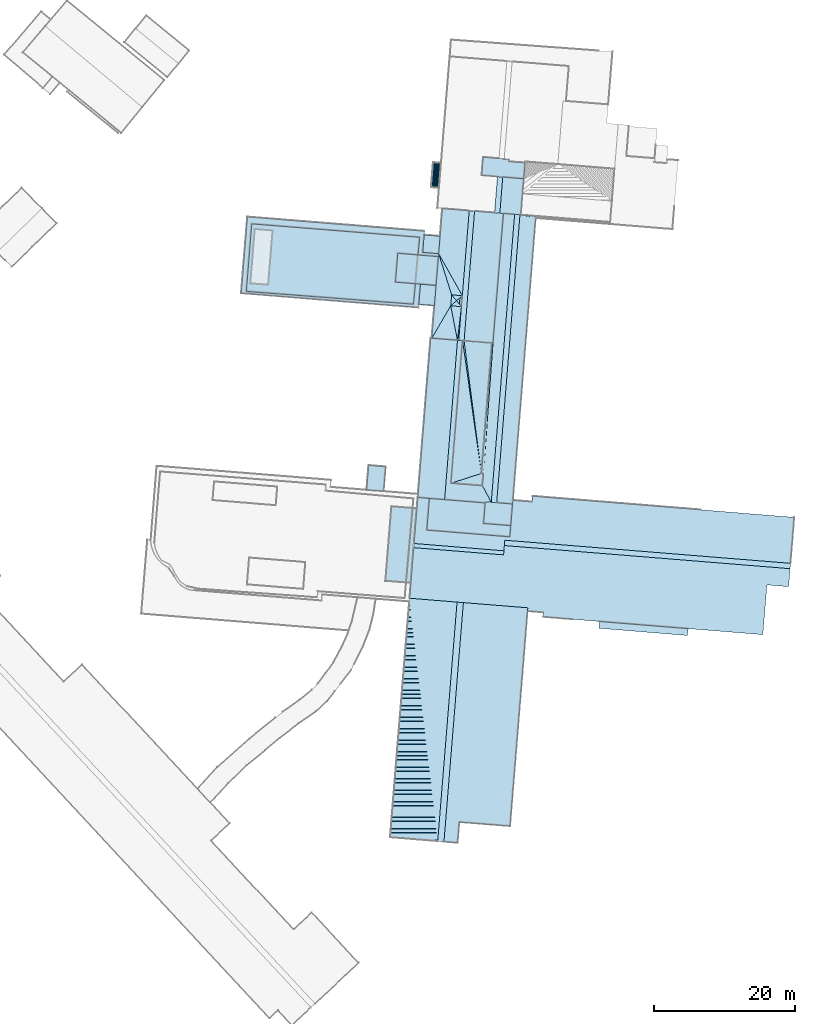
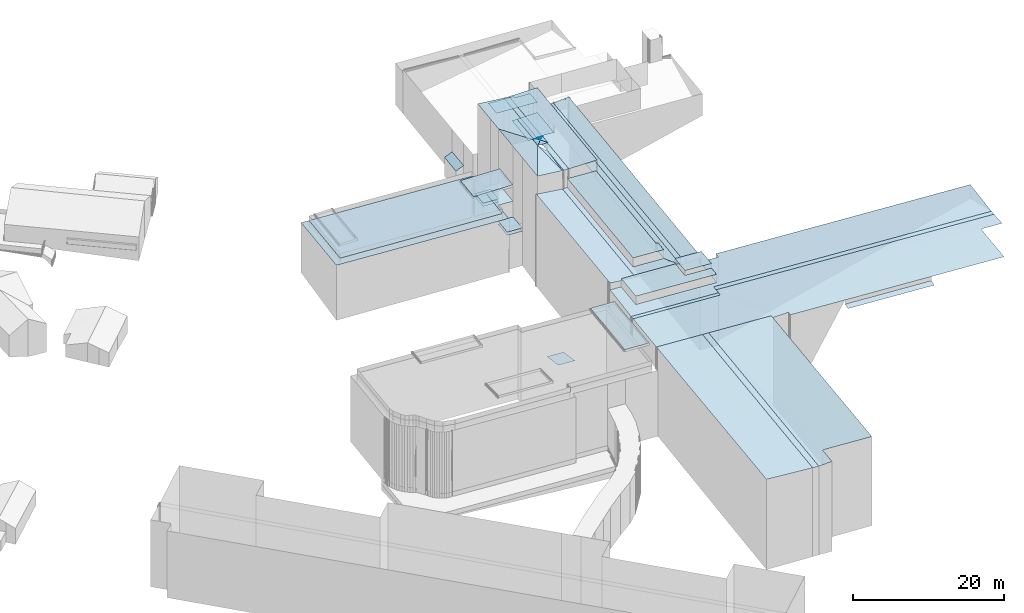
# Not in any storey, part 134 of 136: 69 roofs.
"""IFC2X3 building model written with IfcOpenShell, lengths in metres."""

from ifc_helpers import new_model, entity, si_unit, converted_unit, frame, origin, place, context, subcontext, project, spatial, face_set, surface_model, element, save


model = new_model("IFC2X3")

# Units and contexts
model_context = context("Model", 3, precision=1e-05, world=origin())
body_context = subcontext(model_context, "Body", "Model", "MODEL_VIEW")
ifc_project = project(units=[converted_unit("PLANEANGLEUNIT", "DEGREE", entity("IfcRatioMeasure", 0.0174532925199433), si_unit("PLANEANGLEUNIT", "RADIAN"), dimensions=[0, 0, 0, 0, 0, 0, 0]), si_unit("AREAUNIT", "SQUARE_METRE"), si_unit("LENGTHUNIT", "METRE")], contexts=[model_context])

# Site, building
site_placement = place(None, origin())
site = spatial("IfcSite", under=ifc_project, at=site_placement, Name="_site", CompositionType="ELEMENT")
building_1_placement = place(site_placement, origin())
building_1 = spatial("IfcBuilding", under=site, at=building_1_placement, Name="_building", CompositionType="ELEMENT")

# Roofs
roof_1_placement = place(building_1_placement, origin())
element("IfcRoof", 1, at=roof_1_placement, inside=building_1, Name="Roof", ShapeType="NOTDEFINED", context=body_context, shape_type="SurfaceModel", body=[
    surface_model("IfcFaceBasedSurfaceModel", [(189.5, 104.54, 48.15), (188.73, 94.94, 48.15), (212.49, 93.12, 48.15), (213.36, 102.63, 48.15)], [face_set([[[0, 1, 2, 3]]])]),
])
roof_2_placement = place(building_1_placement, origin())
element("IfcRoof", 2, at=roof_2_placement, inside=building_1, Name="Roof", ShapeType="NOTDEFINED", context=body_context, shape_type="SurfaceModel", body=[
    surface_model("IfcFaceBasedSurfaceModel", [(215.69, 95.79, 50.07), (216.03, 99.88, 50.07), (210.25, 100.36, 49.87), (209.92, 96.26, 49.87)], [face_set([[[0, 1, 2, 3]]])]),
])

# Building
building_2_placement = place(site_placement, origin())
building_2 = spatial("IfcBuilding", under=site, at=building_2_placement, Name="_building", CompositionType="ELEMENT")

# Roofs
roof_3_placement = place(building_2_placement, origin())
element("IfcRoof", 3, at=roof_3_placement, inside=building_2, Name="Roof", ShapeType="NOTDEFINED", context=body_context, shape_type="SurfaceModel", body=[
    surface_model("IfcFaceBasedSurfaceModel", [(266.0, 55.54, 52.09), (266.06, 56.3, 52.09), (225.45, 59.59, 52.09), (225.39, 58.83, 52.09)], [face_set([[[0, 1, 2, 3]]])]),
])
roof_4_placement = place(building_2_placement, origin())
element("IfcRoof", 4, at=roof_4_placement, inside=building_2, Name="Roof", ShapeType="NOTDEFINED", context=body_context, shape_type="SurfaceModel", body=[
    surface_model("IfcFaceBasedSurfaceModel", [(211.93, 51.34, 52.09), (211.89, 50.86, 52.09), (209.17, 17.36, 52.25), (215.92, 16.811, 52.09), (218.67, 50.79, 52.09)], [face_set([[[0, 1, 2, 3, 4]]])]),
])
roof_5_placement = place(building_2_placement, origin())
element("IfcRoof", 5, at=roof_5_placement, inside=building_2, Name="Roof", ShapeType="NOTDEFINED", context=body_context, shape_type="SurfaceModel", body=[
    surface_model("IfcFaceBasedSurfaceModel", [(215.46, 92.93, 44.89), (215.69, 95.79, 44.89), (213.47, 95.97, 44.89), (213.24, 93.11, 44.89)], [face_set([[[0, 1, 2, 3]]])]),
])
roof_6_placement = place(building_2_placement, origin())
element("IfcRoof", 6, at=roof_6_placement, inside=building_2, Name="Roof", ShapeType="NOTDEFINED", context=body_context, shape_type="SurfaceModel", body=[
    surface_model("IfcFaceBasedSurfaceModel", [(205.82, 66.72, 41.95), (208.25, 66.53, 41.95), (208.53, 70.03, 41.13), (206.1, 70.23, 41.13)], [face_set([[[0, 1, 2, 3]]])]),
])
roof_7_placement = place(building_2_placement, origin())
element("IfcRoof", 7, at=roof_7_placement, inside=building_2, Name="Roof", ShapeType="NOTDEFINED", context=body_context, shape_type="SurfaceModel", body=[
    surface_model("IfcFaceBasedSurfaceModel", [(223.64, 87.59, 54.52), (219.67, 87.917, 54.52), (219.45, 87.93, 54.52), (217.81, 67.68, 54.52), (222.28, 67.32, 54.52), (222.42, 69.061, 54.52), (222.14, 69.08, 54.52)], [face_set([[[0, 1, 2, 3, 4, 5, 6]]])]),
])
roof_8_placement = place(building_2_placement, origin())
element("IfcRoof", 8, at=roof_8_placement, inside=building_2, Name="Roof", ShapeType="NOTDEFINED", context=body_context, shape_type="SurfaceModel", body=[
    surface_model("IfcFaceBasedSurfaceModel", [(215.69, 95.79, 50.07), (216.03, 99.88, 50.07), (210.25, 100.36, 49.87), (209.92, 96.26, 49.87)], [face_set([[[0, 1, 2, 3]]])]),
])
roof_9_placement = place(building_2_placement, origin())
element("IfcRoof", 9, at=roof_9_placement, inside=building_2, Name="Roof", ShapeType="NOTDEFINED", context=body_context, shape_type="SurfaceModel", body=[
    surface_model("IfcFaceBasedSurfaceModel", [(219.42, 94.33, 56.01), (219.29, 92.78, 56.01), (218.91, 87.978, 56.01), (219.45, 87.93, 56.01), (219.67, 87.917, 56.01), (221.16, 106.35, 56.01), (220.4, 106.41, 56.01)], [face_set([[[0, 1, 2, 3, 4, 5, 6]]])]),
])
roof_10_placement = place(building_2_placement, origin())
element("IfcRoof", 10, at=roof_10_placement, inside=building_2, Name="Roof", ShapeType="NOTDEFINED", context=body_context, shape_type="SurfaceModel", body=[
    surface_model("IfcFaceBasedSurfaceModel", [(218.67, 50.79, 52.09), (219.57, 50.72, 52.09), (228.73, 49.98, 52.09), (228.69, 49.5, 52.09), (230.94, 49.32, 52.25), (230.89, 48.69, 52.25), (238.89, 48.04, 52.25), (251.5, 47.021, 52.25), (262.13, 46.16, 52.25), (262.71, 53.23, 52.25), (265.79, 52.98, 52.25), (266.0, 55.54, 52.09), (225.39, 58.83, 52.09), (225.33, 58.08, 52.09), (225.28, 57.5, 52.09), (212.511, 58.53, 52.09), (211.93, 51.34, 52.09)], [face_set([[[0, 1, 2, 3, 4, 5, 6, 7, 8, 9, 10, 11, 12, 13, 14, 15, 16]]])]),
])
roof_11_placement = place(building_2_placement, origin())
element("IfcRoof", 11, at=roof_11_placement, inside=building_2, Name="Roof", ShapeType="NOTDEFINED", context=body_context, shape_type="SurfaceModel", body=[
    surface_model("IfcFaceBasedSurfaceModel", [(228.15, 110.95, 49.85), (228.34, 113.22, 49.85), (226.06, 113.4, 49.85), (226.08, 113.72, 49.85), (225.37, 113.774, 49.85), (224.63, 113.833, 49.85), (222.38, 114.021, 49.85), (222.17, 111.43, 49.85), (224.42, 111.25, 49.85), (225.16, 111.19, 49.85)], [face_set([[[0, 1, 2, 3, 4, 5, 6, 7, 8, 9]]])]),
])
roof_12_placement = place(building_2_placement, origin())
element("IfcRoof", 12, at=roof_12_placement, inside=building_2, Name="Roof", ShapeType="NOTDEFINED", context=body_context, shape_type="SurfaceModel", body=[
    surface_model("IfcFaceBasedSurfaceModel", [(222.68, 64.88, 53.57), (216.9, 65.349, 53.57), (214.74, 65.521, 53.57), (214.38, 61.021, 53.57), (226.18, 60.061, 53.57), (226.31, 61.65, 53.57), (222.44, 61.96, 53.57)], [face_set([[[0, 1, 2, 3, 4, 5, 6]]])]),
])
roof_13_placement = place(building_2_placement, origin())
element("IfcRoof", 13, at=roof_13_placement, inside=building_2, Name="Roof", ShapeType="NOTDEFINED", context=body_context, shape_type="SurfaceModel", body=[
    surface_model("IfcFaceBasedSurfaceModel", [(229.85, 105.351, 53.35), (229.88, 105.64, 53.35), (227.74, 105.811, 53.07), (227.61, 105.821, 53.06), (224.3, 64.919, 53.06), (226.56, 64.73, 53.35), (226.61, 65.26, 53.35)], [face_set([[[0, 1, 2, 3, 4, 5, 6]]])]),
])
roof_14_placement = place(building_2_placement, origin())
element("IfcRoof", 14, at=roof_14_placement, inside=building_2, Name="Roof", ShapeType="NOTDEFINED", context=body_context, shape_type="SurfaceModel", body=[
    surface_model("IfcFaceBasedSurfaceModel", [(219.67, 87.917, 56.01), (223.64, 87.59, 56.21), (223.78, 87.58, 56.22), (225.27, 106.01, 56.22), (224.75, 106.058, 56.193), (224.0, 106.118, 56.155), (221.16, 106.35, 56.01)], [face_set([[[0, 1, 2, 3, 4, 5, 6]]])]),
])
roof_15_placement = place(building_2_placement, origin())
element("IfcRoof", 15, at=roof_15_placement, inside=building_2, Name="Roof", ShapeType="NOTDEFINED", context=body_context, shape_type="SurfaceModel", body=[
    surface_model("IfcFaceBasedSurfaceModel", [(227.61, 105.821, 53.06), (226.85, 105.887, 53.06), (223.53, 64.98, 53.06), (224.3, 64.919, 53.06)], [face_set([[[0, 1, 2, 3]]])]),
])
roof_16_placement = place(building_2_placement, origin())
element("IfcRoof", 16, at=roof_16_placement, inside=building_2, Name="Roof", ShapeType="NOTDEFINED", context=body_context, shape_type="SurfaceModel", body=[
    surface_model("IfcFaceBasedSurfaceModel", [(217.77, 92.9, 57.43), (219.29, 92.78, 57.43), (218.6, 93.62, 57.61)], [face_set([[[0, 1, 2]]])]),
])
roof_17_placement = place(building_2_placement, origin())
element("IfcRoof", 17, at=roof_17_placement, inside=building_2, Name="Roof", ShapeType="NOTDEFINED", context=body_context, shape_type="SurfaceModel", body=[
    surface_model("IfcFaceBasedSurfaceModel", [(228.15, 110.95, 49.85), (228.34, 113.22, 49.85), (226.06, 113.4, 49.85), (226.08, 113.72, 49.85), (225.37, 113.774, 49.85), (224.63, 113.833, 49.85), (222.38, 114.021, 49.85), (222.17, 111.43, 49.85), (224.42, 111.25, 49.85), (225.16, 111.19, 49.85)], [face_set([[[0, 1, 2, 3, 4, 5, 6, 7, 8, 9]]])]),
])
roof_18_placement = place(building_2_placement, origin())
element("IfcRoof", 18, at=roof_18_placement, inside=building_2, Name="Roof", ShapeType="NOTDEFINED", context=body_context, shape_type="SurfaceModel", body=[
    surface_model("IfcFaceBasedSurfaceModel", [(216.26, 102.79, 44.36), (214.0, 102.97, 44.36), (213.79, 100.48, 44.36), (216.06, 100.3, 44.36)], [face_set([[[0, 1, 2, 3]]])]),
])
roof_19_placement = place(building_2_placement, origin())
element("IfcRoof", 19, at=roof_19_placement, inside=building_2, Name="Roof", ShapeType="NOTDEFINED", context=body_context, shape_type="SurfaceModel", body=[
    surface_model("IfcFaceBasedSurfaceModel", [(224.0, 106.118, 48.02), (224.75, 106.058, 48.02), (225.16, 111.19, 48.02), (224.42, 111.25, 48.02)], [face_set([[[0, 1, 2, 3]]])]),
])
roof_20_placement = place(building_2_placement, origin())
element("IfcRoof", 20, at=roof_20_placement, inside=building_2, Name="Roof", ShapeType="NOTDEFINED", context=body_context, shape_type="SurfaceModel", body=[
    surface_model("IfcFaceBasedSurfaceModel", [(225.28, 57.5, 52.09), (225.33, 58.08, 52.09), (212.56, 59.12, 52.09), (212.511, 58.53, 52.09)], [face_set([[[0, 1, 2, 3]]])]),
])
roof_21_placement = place(building_2_placement, origin())
element("IfcRoof", 21, at=roof_21_placement, inside=building_2, Name="Roof", ShapeType="NOTDEFINED", context=body_context, shape_type="SurfaceModel", body=[
    surface_model("IfcFaceBasedSurfaceModel", [(218.6, 93.62, 57.61), (219.42, 94.33, 57.43), (217.9, 94.45, 57.43)], [face_set([[[0, 1, 2]]])]),
])
roof_22_placement = place(building_2_placement, origin())
element("IfcRoof", 22, at=roof_22_placement, inside=building_2, Name="Roof", ShapeType="NOTDEFINED", context=body_context, shape_type="SurfaceModel", body=[
    surface_model("IfcFaceBasedSurfaceModel", [(222.68, 64.88, 53.57), (216.9, 65.349, 53.57), (214.74, 65.521, 53.57), (214.38, 61.021, 53.57), (226.18, 60.061, 53.57), (226.31, 61.65, 53.57), (222.44, 61.96, 53.57)], [face_set([[[0, 1, 2, 3, 4, 5, 6]]])]),
])
roof_23_placement = place(building_2_placement, origin())
element("IfcRoof", 23, at=roof_23_placement, inside=building_2, Name="Roof", ShapeType="NOTDEFINED", context=body_context, shape_type="SurfaceModel", body=[
    surface_model("IfcFaceBasedSurfaceModel", [(215.08, 88.29, 56.22), (218.73, 87.992, 56.02), (218.91, 87.978, 56.01), (219.29, 92.78, 56.01), (217.77, 92.9, 57.43), (217.9, 94.45, 57.43), (219.42, 94.33, 56.01), (220.4, 106.41, 56.01), (216.58, 106.72, 56.22), (216.26, 102.79, 56.22), (216.06, 100.3, 56.22), (215.69, 95.79, 56.22), (215.46, 92.93, 56.22)], [face_set([[[0, 1, 2, 3, 4, 5, 6, 7, 8, 9, 10, 11, 12]]])]),
])
roof_24_placement = place(building_2_placement, origin())
element("IfcRoof", 24, at=roof_24_placement, inside=building_2, Name="Roof", ShapeType="NOTDEFINED", context=body_context, shape_type="SurfaceModel", body=[
    surface_model("IfcFaceBasedSurfaceModel", [(189.5, 104.54, 48.15), (188.73, 94.94, 48.15), (212.49, 93.12, 48.15), (213.36, 102.63, 48.15)], [face_set([[[0, 1, 2, 3]]])]),
])
roof_25_placement = place(building_2_placement, origin())
element("IfcRoof", 25, at=roof_25_placement, inside=building_2, Name="Roof", ShapeType="NOTDEFINED", context=body_context, shape_type="SurfaceModel", body=[
    surface_model("IfcFaceBasedSurfaceModel", [(225.28, 57.5, 52.09), (225.33, 58.08, 52.09), (212.56, 59.12, 52.09), (212.511, 58.53, 52.09)], [face_set([[[0, 1, 2, 3]]])]),
])
roof_26_placement = place(building_2_placement, origin())
element("IfcRoof", 26, at=roof_26_placement, inside=building_2, Name="Roof", ShapeType="NOTDEFINED", context=body_context, shape_type="SurfaceModel", body=[
    surface_model("IfcFaceBasedSurfaceModel", [(224.3, 64.919, 54.32), (223.53, 64.98, 54.32), (222.69, 65.05, 54.32), (222.68, 64.88, 54.32), (222.44, 61.96, 54.32), (226.31, 61.65, 54.32), (226.56, 64.73, 54.32)], [face_set([[[0, 1, 2, 3, 4, 5, 6]]])]),
])
roof_27_placement = place(building_2_placement, origin())
element("IfcRoof", 27, at=roof_27_placement, inside=building_2, Name="Roof", ShapeType="NOTDEFINED", context=body_context, shape_type="SurfaceModel", body=[
    surface_model("IfcFaceBasedSurfaceModel", [(215.08, 88.29, 56.22), (218.73, 87.992, 56.02), (218.91, 87.978, 56.01), (219.29, 92.78, 56.01), (217.77, 92.9, 57.43), (217.9, 94.45, 57.43), (219.42, 94.33, 56.01), (220.4, 106.41, 56.01), (216.58, 106.72, 56.22), (216.26, 102.79, 56.22), (216.06, 100.3, 56.22), (215.69, 95.79, 56.22), (215.46, 92.93, 56.22)], [face_set([[[0, 1, 2, 3, 4, 5, 6, 7, 8, 9, 10, 11, 12]]])]),
])
roof_28_placement = place(building_2_placement, origin())
element("IfcRoof", 28, at=roof_28_placement, inside=building_2, Name="Roof", ShapeType="NOTDEFINED", context=body_context, shape_type="SurfaceModel", body=[
    surface_model("IfcFaceBasedSurfaceModel", [(223.64, 87.59, 54.52), (219.67, 87.917, 54.52), (219.45, 87.93, 54.52), (217.81, 67.68, 54.52), (222.28, 67.32, 54.52), (222.42, 69.061, 54.52), (222.14, 69.08, 54.52)], [face_set([[[0, 1, 2, 3, 4, 5, 6]]])]),
])
roof_29_placement = place(building_2_placement, origin())
element("IfcRoof", 29, at=roof_29_placement, inside=building_2, Name="Roof", ShapeType="NOTDEFINED", context=body_context, shape_type="SurfaceModel", body=[
    surface_model("IfcFaceBasedSurfaceModel", [(216.26, 102.79, 44.36), (214.0, 102.97, 44.36), (213.79, 100.48, 44.36), (216.06, 100.3, 44.36)], [face_set([[[0, 1, 2, 3]]])]),
])
roof_30_placement = place(building_2_placement, origin())
element("IfcRoof", 30, at=roof_30_placement, inside=building_2, Name="Roof", ShapeType="NOTDEFINED", context=body_context, shape_type="SurfaceModel", body=[
    surface_model("IfcFaceBasedSurfaceModel", [(218.67, 50.79, 52.09), (219.57, 50.72, 52.09), (228.73, 49.98, 52.09), (228.69, 49.5, 52.09), (230.94, 49.32, 52.25), (230.89, 48.69, 52.25), (238.89, 48.04, 52.25), (251.5, 47.021, 52.25), (262.13, 46.16, 52.25), (262.71, 53.23, 52.25), (265.79, 52.98, 52.25), (266.0, 55.54, 52.09), (225.39, 58.83, 52.09), (225.33, 58.08, 52.09), (225.28, 57.5, 52.09), (212.511, 58.53, 52.09), (211.93, 51.34, 52.09)], [face_set([[[0, 1, 2, 3, 4, 5, 6, 7, 8, 9, 10, 11, 12, 13, 14, 15, 16]]])]),
])
roof_31_placement = place(building_2_placement, origin())
element("IfcRoof", 31, at=roof_31_placement, inside=building_2, Name="Roof", ShapeType="NOTDEFINED", context=body_context, shape_type="SurfaceModel", body=[
    surface_model("IfcFaceBasedSurfaceModel", [(217.77, 92.9, 57.43), (219.29, 92.78, 57.43), (218.6, 93.62, 57.61)], [face_set([[[0, 1, 2]]])]),
])
roof_32_placement = place(building_2_placement, origin())
element("IfcRoof", 32, at=roof_32_placement, inside=building_2, Name="Roof", ShapeType="NOTDEFINED", context=body_context, shape_type="SurfaceModel", body=[
    surface_model("IfcFaceBasedSurfaceModel", [(212.96, 64.09, 51.37), (209.36, 64.38, 51.37), (208.5, 53.79, 51.37), (212.1, 53.5, 51.37)], [face_set([[[0, 1, 2, 3]]])]),
])
for number, where, name in (
    (33, (0.0, 0.0, 0.0), "Roof"),
    (34, (0.0, 0.0, 0.0), "Roof"),
):
    element("IfcRoof", number, at=place(building_2_placement, frame(where)), inside=building_2, Name=name, ShapeType="NOTDEFINED", context=body_context, shape_type="SurfaceModel", body=[
        surface_model("IfcFaceBasedSurfaceModel", [(213.79, 100.48, 44.89), (216.06, 100.3, 44.89), (216.26, 102.79, 44.89), (214.0, 102.97, 44.89)], [face_set([[[0, 1, 2, 3]]])]),
    ])
roof_33_placement = place(building_2_placement, origin())
element("IfcRoof", 35, at=roof_33_placement, inside=building_2, Name="Roof", ShapeType="NOTDEFINED", context=body_context, shape_type="SurfaceModel", body=[
    surface_model("IfcFaceBasedSurfaceModel", [(216.9, 65.349, 53.06), (222.68, 64.88, 53.35), (222.69, 65.05, 53.35), (223.53, 64.98, 53.06), (226.85, 105.887, 53.06), (225.27, 106.01, 53.35), (223.78, 87.58, 53.35), (223.64, 87.59, 53.33), (222.14, 69.08, 53.1), (222.42, 69.061, 53.1), (222.28, 67.32, 53.1), (217.81, 67.68, 53.1), (219.45, 87.93, 53.1), (218.91, 87.978, 53.07), (218.73, 87.992, 53.06)], [face_set([[[0, 1, 2, 3, 4, 5, 6, 7, 8, 9, 10, 11, 12, 13, 14]]])]),
])
roof_34_placement = place(building_2_placement, origin())
element("IfcRoof", 36, at=roof_34_placement, inside=building_2, Name="Roof", ShapeType="NOTDEFINED", context=body_context, shape_type="SurfaceModel", body=[
    surface_model("IfcFaceBasedSurfaceModel", [(216.12, 109.64, 44.61), (216.41, 113.19, 44.61), (215.27, 113.28, 44.04), (214.98, 109.73, 44.04)], [face_set([[[0, 1, 2, 3]]])]),
])
roof_35_placement = place(building_2_placement, origin())
element("IfcRoof", 37, at=roof_35_placement, inside=building_2, Name="Roof", ShapeType="NOTDEFINED", context=body_context, shape_type="SurfaceModel", body=[
    surface_model("IfcFaceBasedSurfaceModel", [(218.6, 93.62, 57.61), (217.9, 94.45, 57.43), (217.77, 92.9, 57.43)], [face_set([[[0, 1, 2]]])]),
])
roof_36_placement = place(building_2_placement, origin())
element("IfcRoof", 38, at=roof_36_placement, inside=building_2, Name="Roof", ShapeType="NOTDEFINED", context=body_context, shape_type="SurfaceModel", body=[
    surface_model("IfcFaceBasedSurfaceModel", [(215.92, 16.811, 52.09), (216.81, 16.74, 52.09), (219.57, 50.72, 52.09), (218.67, 50.79, 52.09)], [face_set([[[0, 1, 2, 3]]])]),
])
roof_37_placement = place(building_2_placement, origin())
element("IfcRoof", 39, at=roof_37_placement, inside=building_2, Name="Roof", ShapeType="NOTDEFINED", context=body_context, shape_type="SurfaceModel", body=[
    surface_model("IfcFaceBasedSurfaceModel", [(205.82, 66.72, 41.95), (208.25, 66.53, 41.95), (208.53, 70.03, 41.13), (206.1, 70.23, 41.13)], [face_set([[[0, 1, 2, 3]]])]),
])
roof_38_placement = place(building_2_placement, origin())
element("IfcRoof", 40, at=roof_38_placement, inside=building_2, Name="Roof", ShapeType="NOTDEFINED", context=body_context, shape_type="SurfaceModel", body=[
    surface_model("IfcFaceBasedSurfaceModel", [(219.42, 94.33, 57.43), (218.6, 93.62, 57.61), (219.29, 92.78, 57.43)], [face_set([[[0, 1, 2]]])]),
])
roof_39_placement = place(building_2_placement, origin())
element("IfcRoof", 41, at=roof_39_placement, inside=building_2, Name="Roof", ShapeType="NOTDEFINED", context=body_context, shape_type="SurfaceModel", body=[
    surface_model("IfcFaceBasedSurfaceModel", [(229.85, 105.351, 53.35), (229.88, 105.64, 53.35), (227.74, 105.811, 53.07), (227.61, 105.821, 53.06), (224.3, 64.919, 53.06), (226.56, 64.73, 53.35), (226.61, 65.26, 53.35)], [face_set([[[0, 1, 2, 3, 4, 5, 6]]])]),
])
roof_40_placement = place(building_2_placement, origin())
element("IfcRoof", 42, at=roof_40_placement, inside=building_2, Name="Roof", ShapeType="NOTDEFINED", context=body_context, shape_type="SurfaceModel", body=[
    surface_model("IfcFaceBasedSurfaceModel", [(266.06, 56.3, 52.09), (266.59, 62.84, 52.25), (229.4, 65.851, 52.25), (229.34, 65.04, 52.25), (226.61, 65.26, 52.25), (226.56, 64.73, 52.25), (226.31, 61.65, 52.25), (226.18, 60.061, 52.25), (214.38, 61.021, 52.25), (214.74, 65.521, 52.25), (213.09, 65.66, 52.25), (212.56, 59.12, 52.09), (225.33, 58.08, 52.09), (225.39, 58.83, 52.09), (225.45, 59.59, 52.09)], [face_set([[[0, 1, 2, 3, 4, 5, 6, 7, 8, 9, 10, 11, 12, 13, 14]]])]),
])
roof_41_placement = place(building_2_placement, origin())
element("IfcRoof", 43, at=roof_41_placement, inside=building_2, Name="Roof", ShapeType="NOTDEFINED", context=body_context, shape_type="SurfaceModel", body=[
    surface_model("IfcFaceBasedSurfaceModel", [(224.75, 106.058, 48.02), (225.27, 106.01, 48.22), (226.85, 105.887, 48.22), (227.61, 105.821, 48.22), (227.74, 105.811, 48.22), (227.979, 108.8, 48.22), (228.15, 110.95, 48.22), (225.16, 111.19, 48.02)], [face_set([[[0, 1, 2, 3, 4, 5, 6, 7]]])]),
])
roof_42_placement = place(building_2_placement, origin())
element("IfcRoof", 44, at=roof_42_placement, inside=building_2, Name="Roof", ShapeType="NOTDEFINED", context=body_context, shape_type="SurfaceModel", body=[
    surface_model("IfcFaceBasedSurfaceModel", [(266.06, 56.3, 52.09), (266.59, 62.84, 52.25), (229.4, 65.851, 52.25), (229.34, 65.04, 52.25), (226.61, 65.26, 52.25), (226.56, 64.73, 52.25), (226.31, 61.65, 52.25), (226.18, 60.061, 52.25), (214.38, 61.021, 52.25), (214.74, 65.521, 52.25), (213.09, 65.66, 52.25), (212.56, 59.12, 52.09), (225.33, 58.08, 52.09), (225.39, 58.83, 52.09), (225.45, 59.59, 52.09)], [face_set([[[0, 1, 2, 3, 4, 5, 6, 7, 8, 9, 10, 11, 12, 13, 14]]])]),
])
roof_43_placement = place(building_2_placement, origin())
element("IfcRoof", 45, at=roof_43_placement, inside=building_2, Name="Roof", ShapeType="NOTDEFINED", context=body_context, shape_type="SurfaceModel", body=[
    surface_model("IfcFaceBasedSurfaceModel", [(218.6, 93.62, 57.61), (219.42, 94.33, 57.43), (217.9, 94.45, 57.43)], [face_set([[[0, 1, 2]]])]),
])
roof_44_placement = place(building_2_placement, origin())
element("IfcRoof", 46, at=roof_44_placement, inside=building_2, Name="Roof", ShapeType="NOTDEFINED", context=body_context, shape_type="SurfaceModel", body=[
    surface_model("IfcFaceBasedSurfaceModel", [(224.3, 64.919, 54.32), (223.53, 64.98, 54.32), (222.69, 65.05, 54.32), (222.68, 64.88, 54.32), (222.44, 61.96, 54.32), (226.31, 61.65, 54.32), (226.56, 64.73, 54.32)], [face_set([[[0, 1, 2, 3, 4, 5, 6]]])]),
])
roof_45_placement = place(building_2_placement, origin())
element("IfcRoof", 47, at=roof_45_placement, inside=building_2, Name="Roof", ShapeType="NOTDEFINED", context=body_context, shape_type="SurfaceModel", body=[
    surface_model("IfcFaceBasedSurfaceModel", [(216.81, 16.74, 52.09), (218.76, 16.58, 52.25), (219.0, 19.53, 52.25), (226.21, 18.95, 52.25), (228.69, 49.5, 52.09), (228.73, 49.98, 52.09), (219.57, 50.72, 52.09)], [face_set([[[0, 1, 2, 3, 4, 5, 6]]])]),
])
roof_46_placement = place(building_2_placement, origin())
element("IfcRoof", 48, at=roof_46_placement, inside=building_2, Name="Roof", ShapeType="NOTDEFINED", context=body_context, shape_type="SurfaceModel", body=[
    surface_model("IfcFaceBasedSurfaceModel", [(219.42, 94.33, 56.01), (219.29, 92.78, 56.01), (218.91, 87.978, 56.01), (219.45, 87.93, 56.01), (219.67, 87.917, 56.01), (221.16, 106.35, 56.01), (220.4, 106.41, 56.01)], [face_set([[[0, 1, 2, 3, 4, 5, 6]]])]),
])
roof_47_placement = place(building_2_placement, origin())
element("IfcRoof", 49, at=roof_47_placement, inside=building_2, Name="Roof", ShapeType="NOTDEFINED", context=body_context, shape_type="SurfaceModel", body=[
    surface_model("IfcFaceBasedSurfaceModel", [(215.46, 92.93, 44.89), (215.69, 95.79, 44.89), (213.47, 95.97, 44.89), (213.24, 93.11, 44.89)], [face_set([[[0, 1, 2, 3]]])]),
])
roof_48_placement = place(building_2_placement, origin())
element("IfcRoof", 50, at=roof_48_placement, inside=building_2, Name="Roof", ShapeType="NOTDEFINED", context=body_context, shape_type="SurfaceModel", body=[
    surface_model("IfcFaceBasedSurfaceModel", [(218.6, 93.62, 57.61), (217.9, 94.45, 57.43), (217.77, 92.9, 57.43)], [face_set([[[0, 1, 2]]])]),
])
roof_49_placement = place(building_2_placement, origin())
element("IfcRoof", 51, at=roof_49_placement, inside=building_2, Name="Roof", ShapeType="NOTDEFINED", context=body_context, shape_type="SurfaceModel", body=[
    surface_model("IfcFaceBasedSurfaceModel", [(215.69, 95.79, 44.36), (213.47, 95.97, 44.36), (213.24, 93.11, 44.36), (215.46, 92.93, 44.36)], [face_set([[[0, 1, 2, 3]]])]),
])
roof_50_placement = place(building_2_placement, origin())
element("IfcRoof", 52, at=roof_50_placement, inside=building_2, Name="Roof", ShapeType="NOTDEFINED", context=body_context, shape_type="SurfaceModel", body=[
    surface_model("IfcFaceBasedSurfaceModel", [(218.73, 87.992, 53.06), (215.08, 88.29, 53.33), (214.92, 88.3, 53.35), (213.13, 66.13, 53.35), (213.09, 65.66, 53.35), (214.74, 65.521, 53.22), (216.9, 65.349, 53.06)], [face_set([[[0, 1, 2, 3, 4, 5, 6]]])]),
])
roof_51_placement = place(building_2_placement, origin())
element("IfcRoof", 53, at=roof_51_placement, inside=building_2, Name="Roof", ShapeType="NOTDEFINED", context=body_context, shape_type="SurfaceModel", body=[
    surface_model("IfcFaceBasedSurfaceModel", [(215.92, 16.811, 52.09), (216.81, 16.74, 52.09), (219.57, 50.72, 52.09), (218.67, 50.79, 52.09)], [face_set([[[0, 1, 2, 3]]])]),
])
roof_52_placement = place(building_2_placement, origin())
element("IfcRoof", 54, at=roof_52_placement, inside=building_2, Name="Roof", ShapeType="NOTDEFINED", context=body_context, shape_type="SurfaceModel", body=[
    surface_model("IfcFaceBasedSurfaceModel", [(227.61, 105.821, 53.06), (226.85, 105.887, 53.06), (223.53, 64.98, 53.06), (224.3, 64.919, 53.06)], [face_set([[[0, 1, 2, 3]]])]),
])
roof_53_placement = place(building_2_placement, origin())
element("IfcRoof", 55, at=roof_53_placement, inside=building_2, Name="Roof", ShapeType="NOTDEFINED", context=body_context, shape_type="SurfaceModel", body=[
    surface_model("IfcFaceBasedSurfaceModel", [(251.5, 47.021, 51.59), (238.89, 48.04, 51.59), (238.81, 47.07, 51.49), (251.42, 46.04, 51.49)], [face_set([[[0, 1, 2, 3]]])]),
])
roof_54_placement = place(building_2_placement, origin())
element("IfcRoof", 56, at=roof_54_placement, inside=building_2, Name="Roof", ShapeType="NOTDEFINED", context=body_context, shape_type="SurfaceModel", body=[
    surface_model("IfcFaceBasedSurfaceModel", [(224.75, 106.058, 48.02), (225.27, 106.01, 48.22), (226.85, 105.887, 48.22), (227.61, 105.821, 48.22), (227.74, 105.811, 48.22), (227.979, 108.8, 48.22), (228.15, 110.95, 48.22), (225.16, 111.19, 48.02)], [face_set([[[0, 1, 2, 3, 4, 5, 6, 7]]])]),
])
roof_55_placement = place(building_2_placement, origin())
element("IfcRoof", 57, at=roof_55_placement, inside=building_2, Name="Roof", ShapeType="NOTDEFINED", context=body_context, shape_type="SurfaceModel", body=[
    surface_model("IfcFaceBasedSurfaceModel", [(216.12, 109.64, 44.61), (216.41, 113.19, 44.61), (215.27, 113.28, 44.04), (214.98, 109.73, 44.04)], [face_set([[[0, 1, 2, 3]]])]),
])
roof_56_placement = place(building_2_placement, origin())
element("IfcRoof", 58, at=roof_56_placement, inside=building_2, Name="Roof", ShapeType="NOTDEFINED", context=body_context, shape_type="SurfaceModel", body=[
    surface_model("IfcFaceBasedSurfaceModel", [(224.0, 106.118, 48.02), (224.75, 106.058, 48.02), (225.16, 111.19, 48.02), (224.42, 111.25, 48.02)], [face_set([[[0, 1, 2, 3]]])]),
])
roof_57_placement = place(building_2_placement, origin())
element("IfcRoof", 59, at=roof_57_placement, inside=building_2, Name="Roof", ShapeType="NOTDEFINED", context=body_context, shape_type="SurfaceModel", body=[
    surface_model("IfcFaceBasedSurfaceModel", [(218.73, 87.992, 53.06), (215.08, 88.29, 53.33), (214.92, 88.3, 53.35), (213.13, 66.13, 53.35), (213.09, 65.66, 53.35), (214.74, 65.521, 53.22), (216.9, 65.349, 53.06)], [face_set([[[0, 1, 2, 3, 4, 5, 6]]])]),
])
roof_58_placement = place(building_2_placement, origin())
element("IfcRoof", 60, at=roof_58_placement, inside=building_2, Name="Roof", ShapeType="NOTDEFINED", context=body_context, shape_type="SurfaceModel", body=[
    surface_model("IfcFaceBasedSurfaceModel", [(213.24, 93.11, 47.4), (213.47, 95.97, 47.4), (215.69, 95.79, 47.4), (216.06, 100.3, 47.4), (213.79, 100.48, 47.4), (214.0, 102.97, 47.4), (214.04, 103.51, 47.4), (188.88, 105.54, 47.4), (188.0, 94.68, 47.4), (213.2, 92.64, 47.4)], [face_set([[[0, 1, 2, 3, 4, 5, 6, 7, 8, 9]]])]),
])
roof_59_placement = place(building_2_placement, origin())
element("IfcRoof", 61, at=roof_59_placement, inside=building_2, Name="Roof", ShapeType="NOTDEFINED", context=body_context, shape_type="SurfaceModel", body=[
    surface_model("IfcFaceBasedSurfaceModel", [(219.42, 94.33, 57.43), (218.6, 93.62, 57.61), (219.29, 92.78, 57.43)], [face_set([[[0, 1, 2]]])]),
])
roof_60_placement = place(building_2_placement, origin())
element("IfcRoof", 62, at=roof_60_placement, inside=building_2, Name="Roof", ShapeType="NOTDEFINED", context=body_context, shape_type="SurfaceModel", body=[
    surface_model("IfcFaceBasedSurfaceModel", [(266.0, 55.54, 52.09), (266.06, 56.3, 52.09), (225.45, 59.59, 52.09), (225.39, 58.83, 52.09)], [face_set([[[0, 1, 2, 3]]])]),
])
roof_61_placement = place(building_2_placement, origin())
element("IfcRoof", 63, at=roof_61_placement, inside=building_2, Name="Roof", ShapeType="NOTDEFINED", context=body_context, shape_type="SurfaceModel", body=[
    surface_model("IfcFaceBasedSurfaceModel", [(219.67, 87.917, 56.01), (223.64, 87.59, 56.21), (223.78, 87.58, 56.22), (225.27, 106.01, 56.22), (224.75, 106.058, 56.193), (224.0, 106.118, 56.155), (221.16, 106.35, 56.01)], [face_set([[[0, 1, 2, 3, 4, 5, 6]]])]),
])
roof_62_placement = place(building_2_placement, origin())
element("IfcRoof", 64, at=roof_62_placement, inside=building_2, Name="Roof", ShapeType="NOTDEFINED", context=body_context, shape_type="SurfaceModel", body=[
    surface_model("IfcFaceBasedSurfaceModel", [(215.69, 95.79, 44.36), (213.47, 95.97, 44.36), (213.24, 93.11, 44.36), (215.46, 92.93, 44.36)], [face_set([[[0, 1, 2, 3]]])]),
])
roof_63_placement = place(building_2_placement, origin())
element("IfcRoof", 65, at=roof_63_placement, inside=building_2, Name="Roof", ShapeType="NOTDEFINED", context=body_context, shape_type="SurfaceModel", body=[
    surface_model("IfcFaceBasedSurfaceModel", [(211.93, 51.34, 52.09), (211.89, 50.86, 52.09), (209.17, 17.36, 52.25), (215.92, 16.811, 52.09), (218.67, 50.79, 52.09)], [face_set([[[0, 1, 2, 3, 4]]])]),
])
roof_64_placement = place(building_2_placement, origin())
element("IfcRoof", 66, at=roof_64_placement, inside=building_2, Name="Roof", ShapeType="NOTDEFINED", context=body_context, shape_type="SurfaceModel", body=[
    surface_model("IfcFaceBasedSurfaceModel", [(216.81, 16.74, 52.09), (218.76, 16.58, 52.25), (219.0, 19.53, 52.25), (226.21, 18.95, 52.25), (228.69, 49.5, 52.09), (228.73, 49.98, 52.09), (219.57, 50.72, 52.09)], [face_set([[[0, 1, 2, 3, 4, 5, 6]]])]),
])
roof_65_placement = place(building_2_placement, origin())
element("IfcRoof", 67, at=roof_65_placement, inside=building_2, Name="Roof", ShapeType="NOTDEFINED", context=body_context, shape_type="SurfaceModel", body=[
    surface_model("IfcFaceBasedSurfaceModel", [(251.5, 47.021, 51.59), (238.89, 48.04, 51.59), (238.81, 47.07, 51.49), (251.42, 46.04, 51.49)], [face_set([[[0, 1, 2, 3]]])]),
])
roof_66_placement = place(building_2_placement, origin())
element("IfcRoof", 68, at=roof_66_placement, inside=building_2, Name="Roof", ShapeType="NOTDEFINED", context=body_context, shape_type="SurfaceModel", body=[
    surface_model("IfcFaceBasedSurfaceModel", [(216.9, 65.349, 53.06), (222.68, 64.88, 53.35), (222.69, 65.05, 53.35), (223.53, 64.98, 53.06), (226.85, 105.887, 53.06), (225.27, 106.01, 53.35), (223.78, 87.58, 53.35), (223.64, 87.59, 53.33), (222.14, 69.08, 53.1), (222.42, 69.061, 53.1), (222.28, 67.32, 53.1), (217.81, 67.68, 53.1), (219.45, 87.93, 53.1), (218.91, 87.978, 53.07), (218.73, 87.992, 53.06)], [face_set([[[0, 1, 2, 3, 4, 5, 6, 7, 8, 9, 10, 11, 12, 13, 14]]])]),
])
roof_67_placement = place(building_2_placement, origin())
element("IfcRoof", 69, at=roof_67_placement, inside=building_2, Name="Roof", ShapeType="NOTDEFINED", context=body_context, shape_type="SurfaceModel", body=[
    surface_model("IfcFaceBasedSurfaceModel", [(213.24, 93.11, 47.4), (213.47, 95.97, 47.4), (215.69, 95.79, 47.4), (216.06, 100.3, 47.4), (213.79, 100.48, 47.4), (214.0, 102.97, 47.4), (214.04, 103.51, 47.4), (188.88, 105.54, 47.4), (188.0, 94.68, 47.4), (213.2, 92.64, 47.4)], [face_set([[[0, 1, 2, 3, 4, 5, 6, 7, 8, 9]]])]),
])

save(model, "model.ifc")
